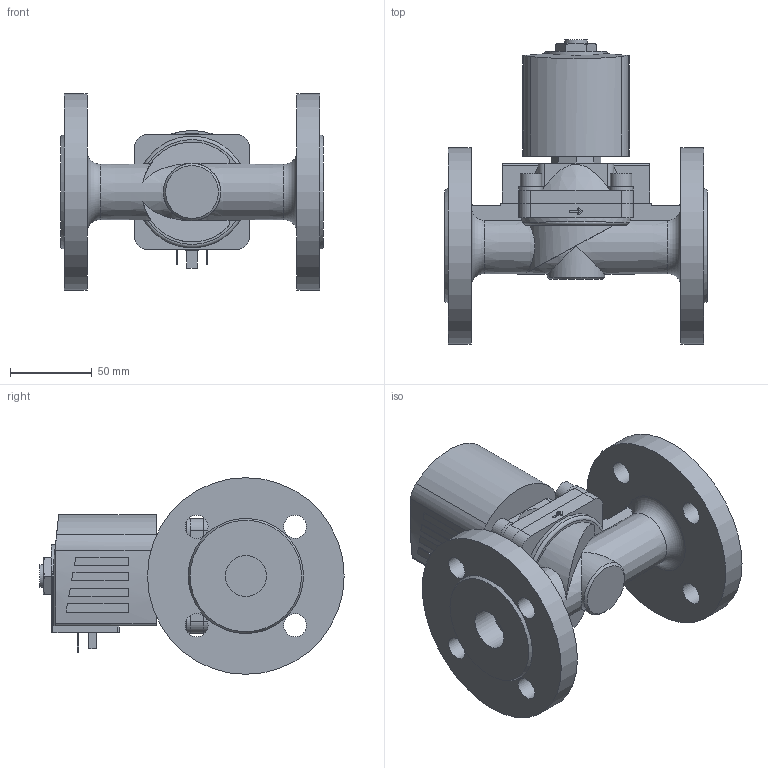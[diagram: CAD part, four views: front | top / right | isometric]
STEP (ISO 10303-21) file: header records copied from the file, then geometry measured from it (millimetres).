
FILE_DESCRIPTION(/* description */ ('STEP AP214'),/* implementation_level */ '2;1');
FILE_NAME(/* name */ '6407-379382-Servo-assisted_2_2_way_piston_valve',/* time_stamp */ '2024-07-02T12:41:29+02:00',/* author */ ('License CC BY-ND 4.0'),/* organization */ ('CADENAS'),/* preprocessor_version */ 'ST-DEVELOPER v19.3',/* originating_system */ 'PARTsolutions',/* authorisation */ ' ');
FILE_SCHEMA (('AUTOMOTIVE_DESIGN {1 0 10303 214 3 1 1}'));
Length unit declared in the file: millimetre
Products named in the file (4): 6407-379382-Servo-assisted 2/2 way piston valve; 5282g-FD1225VA100-2/2-Wege-Magnetventil_Gehaeuse; 5282d-25MSAU5N-2/2-Wege-Magnetventil_Deckel; AC10ex-65SG=l-Plan-Coil
Assembly tree (3 placements, depth 2):
  6407-379382-Servo-assisted 2/2 way piston valve
    5282g-FD1225VA100-2/2-Wege-Magnetventil_Gehaeuse
    5282d-25MSAU5N-2/2-Wege-Magnetventil_Deckel
    AC10ex-65SG=l-Plan-Coil
Bounding box: 160 x 185.7 x 120 mm (x, y, z)
Volume: 857185.6 mm3; surface area: 126114.5 mm2
Topology: 3 solids, 3 shells, 263 faces, 676 edges, 451 vertices
Faces by surface type: plane 170, cylinder 75, cone 14, torus 4
Full cylindrical faces by diameter (mm): 2.013 x1, 13 x4, 14 x9, 14.8 x4, 25 x2, 35 x1, 120 x2
Entity records: 8771 total; most frequent: CARTESIAN_POINT 1646, DIRECTION 1310, ORIENTED_EDGE 1278, EDGE_CURVE 639, AXIS2_PLACEMENT_3D 456, VERTEX_POINT 441, LINE 398, VECTOR 398
